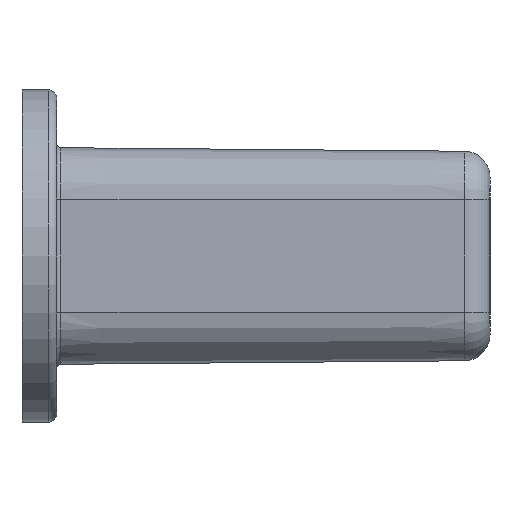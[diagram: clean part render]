
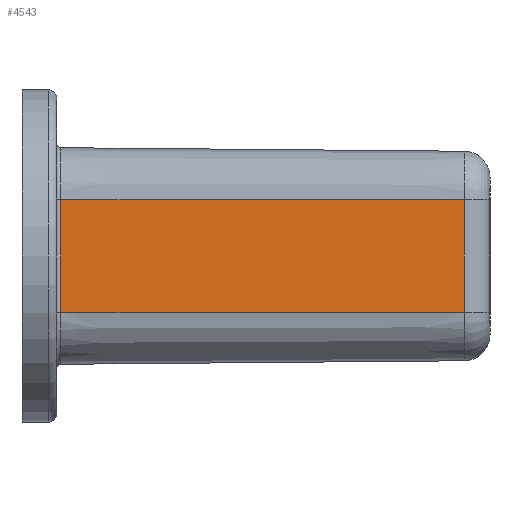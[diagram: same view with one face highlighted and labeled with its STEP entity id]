
A CAD part, left-side view. The second image highlights one B-rep face of the part: STEP entity #4543.
In plain terms, the highlighted planar face has unit normal (-1, -0.009, 0).
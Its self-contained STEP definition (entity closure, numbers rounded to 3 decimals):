
#204 = VERTEX_POINT ( 'NONE', #622 ) ;
#346 = CARTESIAN_POINT ( 'NONE',  ( -24.5, -2., -3.25 ) ) ;
#420 = EDGE_CURVE ( 'NONE', #3116, #4194, #871, .T. ) ;
#622 = CARTESIAN_POINT ( 'NONE',  ( -24.295, -25.513, -3.25 ) ) ;
#720 = ORIENTED_EDGE ( 'NONE', *, *, #767, .T. ) ;
#767 = EDGE_CURVE ( 'NONE', #4194, #2497, #2624, .T. ) ;
#871 = LINE ( 'NONE', #4473, #5428 ) ;
#915 = PLANE ( 'NONE',  #977 ) ;
#933 = ORIENTED_EDGE ( 'NONE', *, *, #420, .T. ) ;
#977 = AXIS2_PLACEMENT_3D ( 'NONE', #3490, #5311, #3934 ) ;
#1140 = EDGE_CURVE ( 'NONE', #204, #3116, #3522, .T. ) ;
#1200 = DIRECTION ( 'NONE',  ( -0.009, 1., 0. ) ) ;
#1687 = CARTESIAN_POINT ( 'NONE',  ( -24.295, -25.513, 0. ) ) ;
#1880 = CARTESIAN_POINT ( 'NONE',  ( -24.498, -2.248, -3.25 ) ) ;
#2160 = DIRECTION ( 'NONE',  ( 0., 0., -1. ) ) ;
#2466 = ORIENTED_EDGE ( 'NONE', *, *, #1140, .T. ) ;
#2497 = VERTEX_POINT ( 'NONE', #1880 ) ;
#2545 = LINE ( 'NONE', #346, #2820 ) ;
#2567 = EDGE_CURVE ( 'NONE', #204, #2497, #2545, .T. ) ;
#2624 = LINE ( 'NONE', #4850, #3365 ) ;
#2627 = VECTOR ( 'NONE', #2672, 1000. ) ;
#2643 = FACE_OUTER_BOUND ( 'NONE', #4923, .T. ) ;
#2672 = DIRECTION ( 'NONE',  ( 0., 0., 1. ) ) ;
#2820 = VECTOR ( 'NONE', #1200, 1000. ) ;
#3064 = CARTESIAN_POINT ( 'NONE',  ( -24.498, -2.248, 3.25 ) ) ;
#3116 = VERTEX_POINT ( 'NONE', #3260 ) ;
#3260 = CARTESIAN_POINT ( 'NONE',  ( -24.295, -25.513, 3.25 ) ) ;
#3365 = VECTOR ( 'NONE', #2160, 1000. ) ;
#3490 = CARTESIAN_POINT ( 'NONE',  ( -24.5, -2., 0. ) ) ;
#3522 = LINE ( 'NONE', #1687, #2627 ) ;
#3651 = DIRECTION ( 'NONE',  ( -0.009, 1., 0. ) ) ;
#3934 = DIRECTION ( 'NONE',  ( 0.009, -1., 0. ) ) ;
#4194 = VERTEX_POINT ( 'NONE', #3064 ) ;
#4473 = CARTESIAN_POINT ( 'NONE',  ( -24.5, -2., 3.25 ) ) ;
#4543 = ADVANCED_FACE ( 'NONE', ( #2643 ), #915, .T. ) ;
#4653 = ORIENTED_EDGE ( 'NONE', *, *, #2567, .F. ) ;
#4850 = CARTESIAN_POINT ( 'NONE',  ( -24.498, -2.248, 0. ) ) ;
#4923 = EDGE_LOOP ( 'NONE', ( #4653, #2466, #933, #720 ) ) ;
#5311 = DIRECTION ( 'NONE',  ( -1., -0.009, 0. ) ) ;
#5428 = VECTOR ( 'NONE', #3651, 1000. ) ;
